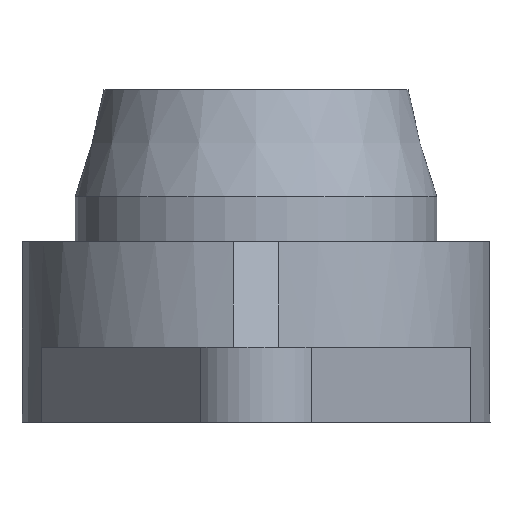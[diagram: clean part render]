
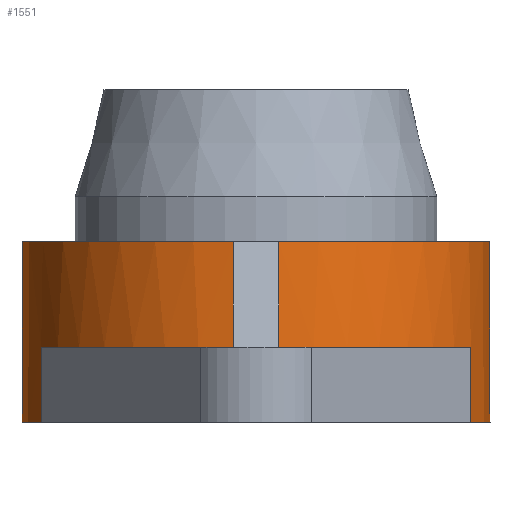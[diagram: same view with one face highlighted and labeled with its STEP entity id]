
A CAD part, front view. The second image highlights one B-rep face of the part: STEP entity #1551.
In plain terms, the highlighted cylindrical face has radius 41.5 mm (diameter 83 mm), a partial arc.
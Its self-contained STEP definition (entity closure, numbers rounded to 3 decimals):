
#130=FACE_BOUND('',#254,.T.);
#161=FACE_OUTER_BOUND('',#253,.T.);
#253=EDGE_LOOP('',(#1037,#1038,#1039,#1040,#1041,#1042,#1043,#1044));
#254=EDGE_LOOP('',(#1045,#1046));
#369=B_SPLINE_CURVE_WITH_KNOTS('',3,(#2498,#2499,#2500,#2501,#2502,#2503,
#2504,#2505,#2506,#2507,#2508,#2509,#2510,#2511,#2512,#2513,#2514,#2515),
 .UNSPECIFIED.,.F.,.F.,(4,2,2,2,2,2,2,2,4),(0.375,0.469,
0.563,0.656,0.75,0.844,
0.938,1.032,1.125),.UNSPECIFIED.);
#370=B_SPLINE_CURVE_WITH_KNOTS('',3,(#2516,#2517,#2518,#2519,#2520,#2521,
#2522,#2523,#2524,#2525,#2526,#2527,#2528,#2529,#2530,#2531,#2532,#2533,
#2534),.UNSPECIFIED.,.F.,.F.,(4,2,2,2,3,2,2,2,4),(1.125,1.219,
1.313,1.407,1.501,1.594,1.688,
1.782,1.876),.UNSPECIFIED.);
#382=LINE('',#2482,#468);
#383=LINE('',#2486,#469);
#384=LINE('',#2490,#470);
#385=LINE('',#2494,#471);
#468=VECTOR('',#1968,10.);
#469=VECTOR('',#1971,10.);
#470=VECTOR('',#1974,10.);
#471=VECTOR('',#1977,10.);
#560=CIRCLE('',#1758,41.5);
#561=CIRCLE('',#1759,41.5);
#562=CIRCLE('',#1760,41.5);
#563=CIRCLE('',#1761,41.5);
#658=VERTEX_POINT('',#2480);
#659=VERTEX_POINT('',#2481);
#660=VERTEX_POINT('',#2483);
#661=VERTEX_POINT('',#2485);
#662=VERTEX_POINT('',#2487);
#663=VERTEX_POINT('',#2489);
#664=VERTEX_POINT('',#2491);
#665=VERTEX_POINT('',#2493);
#666=VERTEX_POINT('',#2496);
#667=VERTEX_POINT('',#2497);
#812=EDGE_CURVE('',#658,#659,#382,.T.);
#813=EDGE_CURVE('',#660,#659,#560,.T.);
#814=EDGE_CURVE('',#661,#660,#383,.T.);
#815=EDGE_CURVE('',#661,#662,#561,.T.);
#816=EDGE_CURVE('',#662,#663,#384,.T.);
#817=EDGE_CURVE('',#664,#663,#562,.T.);
#818=EDGE_CURVE('',#664,#665,#385,.T.);
#819=EDGE_CURVE('',#665,#658,#563,.T.);
#820=EDGE_CURVE('',#666,#667,#369,.T.);
#821=EDGE_CURVE('',#667,#666,#370,.T.);
#1037=ORIENTED_EDGE('',*,*,#812,.T.);
#1038=ORIENTED_EDGE('',*,*,#813,.F.);
#1039=ORIENTED_EDGE('',*,*,#814,.F.);
#1040=ORIENTED_EDGE('',*,*,#815,.T.);
#1041=ORIENTED_EDGE('',*,*,#816,.T.);
#1042=ORIENTED_EDGE('',*,*,#817,.F.);
#1043=ORIENTED_EDGE('',*,*,#818,.T.);
#1044=ORIENTED_EDGE('',*,*,#819,.T.);
#1045=ORIENTED_EDGE('',*,*,#820,.T.);
#1046=ORIENTED_EDGE('',*,*,#821,.T.);
#1466=CYLINDRICAL_SURFACE('',#1757,41.5);
#1551=ADVANCED_FACE('',(#161,#130),#1466,.T.);
#1757=AXIS2_PLACEMENT_3D('',#2479,#1966,#1967);
#1758=AXIS2_PLACEMENT_3D('',#2484,#1969,#1970);
#1759=AXIS2_PLACEMENT_3D('',#2488,#1972,#1973);
#1760=AXIS2_PLACEMENT_3D('',#2492,#1975,#1976);
#1761=AXIS2_PLACEMENT_3D('',#2495,#1978,#1979);
#1966=DIRECTION('center_axis',(0.,0.,1.));
#1967=DIRECTION('ref_axis',(0.,1.,0.));
#1968=DIRECTION('',(0.,0.,-1.));
#1969=DIRECTION('center_axis',(0.,0.,
-1.));
#1970=DIRECTION('ref_axis',(-1.,0.,0.));
#1971=DIRECTION('',(0.,0.,1.));
#1972=DIRECTION('center_axis',(0.,0.,1.));
#1973=DIRECTION('ref_axis',(0.916,-0.402,0.));
#1974=DIRECTION('',(0.,0.,1.));
#1975=DIRECTION('center_axis',(0.,0.,
-1.));
#1976=DIRECTION('ref_axis',(-1.,0.,0.));
#1977=DIRECTION('',(0.,0.,1.));
#1978=DIRECTION('center_axis',(0.,0.,-1.));
#1979=DIRECTION('ref_axis',(-1.,0.,0.));
#2479=CARTESIAN_POINT('Origin',(0.,0.,-19.3));
#2480=CARTESIAN_POINT('',(4.,-41.307,12.7));
#2481=CARTESIAN_POINT('',(4.,-41.307,-6.));
#2482=CARTESIAN_POINT('',(4.,-41.307,-19.3));
#2483=CARTESIAN_POINT('',(38.,-16.681,-6.));
#2484=CARTESIAN_POINT('Origin',(0.,0.,-6.));
#2485=CARTESIAN_POINT('',(38.,-16.681,-19.3));
#2486=CARTESIAN_POINT('',(38.,-16.681,-19.3));
#2487=CARTESIAN_POINT('',(-38.,-16.681,-19.3));
#2488=CARTESIAN_POINT('Origin',(0.,0.,-19.3));
#2489=CARTESIAN_POINT('',(-38.,-16.681,-6.));
#2490=CARTESIAN_POINT('',(-38.,-16.681,-19.3));
#2491=CARTESIAN_POINT('',(-4.,-41.307,-6.));
#2492=CARTESIAN_POINT('Origin',(0.,0.,-6.));
#2493=CARTESIAN_POINT('',(-4.,-41.307,12.7));
#2494=CARTESIAN_POINT('',(-4.,-41.307,-19.3));
#2495=CARTESIAN_POINT('Origin',(0.,0.,12.7));
#2496=CARTESIAN_POINT('',(-29.345,29.345,2.211));
#2497=CARTESIAN_POINT('',(-29.345,29.345,7.189));
#2498=CARTESIAN_POINT('Ctrl Pts',(-29.345,29.345,2.211));
#2499=CARTESIAN_POINT('Ctrl Pts',(-29.124,29.566,2.211));
#2500=CARTESIAN_POINT('Ctrl Pts',(-28.885,29.799,2.273));
#2501=CARTESIAN_POINT('Ctrl Pts',(-28.442,30.223,2.528));
#2502=CARTESIAN_POINT('Ctrl Pts',(-28.237,30.413,2.719));
#2503=CARTESIAN_POINT('Ctrl Pts',(-27.911,30.713,3.161));
#2504=CARTESIAN_POINT('Ctrl Pts',(-27.769,30.841,3.441));
#2505=CARTESIAN_POINT('Ctrl Pts',(-27.579,31.011,4.054));
#2506=CARTESIAN_POINT('Ctrl Pts',(-27.532,31.052,4.387));
#2507=CARTESIAN_POINT('Ctrl Pts',(-27.532,31.052,5.013));
#2508=CARTESIAN_POINT('Ctrl Pts',(-27.579,31.011,5.346));
#2509=CARTESIAN_POINT('Ctrl Pts',(-27.769,30.841,5.959));
#2510=CARTESIAN_POINT('Ctrl Pts',(-27.911,30.713,6.239));
#2511=CARTESIAN_POINT('Ctrl Pts',(-28.237,30.413,6.681));
#2512=CARTESIAN_POINT('Ctrl Pts',(-28.442,30.223,6.872));
#2513=CARTESIAN_POINT('Ctrl Pts',(-28.885,29.799,7.127));
#2514=CARTESIAN_POINT('Ctrl Pts',(-29.124,29.566,7.189));
#2515=CARTESIAN_POINT('Ctrl Pts',(-29.345,29.345,7.189));
#2516=CARTESIAN_POINT('Ctrl Pts',(-29.345,29.345,7.189));
#2517=CARTESIAN_POINT('Ctrl Pts',(-29.566,29.124,7.189));
#2518=CARTESIAN_POINT('Ctrl Pts',(-29.799,28.885,7.127));
#2519=CARTESIAN_POINT('Ctrl Pts',(-30.223,28.442,6.872));
#2520=CARTESIAN_POINT('Ctrl Pts',(-30.413,28.237,6.681));
#2521=CARTESIAN_POINT('Ctrl Pts',(-30.713,27.911,6.239));
#2522=CARTESIAN_POINT('Ctrl Pts',(-30.841,27.769,5.959));
#2523=CARTESIAN_POINT('Ctrl Pts',(-31.011,27.579,5.346));
#2524=CARTESIAN_POINT('Ctrl Pts',(-31.052,27.532,5.013));
#2525=CARTESIAN_POINT('Ctrl Pts',(-31.052,27.532,4.7));
#2526=CARTESIAN_POINT('Ctrl Pts',(-31.052,27.532,4.387));
#2527=CARTESIAN_POINT('Ctrl Pts',(-31.011,27.579,4.054));
#2528=CARTESIAN_POINT('Ctrl Pts',(-30.841,27.769,3.441));
#2529=CARTESIAN_POINT('Ctrl Pts',(-30.713,27.911,3.161));
#2530=CARTESIAN_POINT('Ctrl Pts',(-30.413,28.237,2.719));
#2531=CARTESIAN_POINT('Ctrl Pts',(-30.223,28.442,2.528));
#2532=CARTESIAN_POINT('Ctrl Pts',(-29.799,28.885,2.273));
#2533=CARTESIAN_POINT('Ctrl Pts',(-29.566,29.124,2.211));
#2534=CARTESIAN_POINT('Ctrl Pts',(-29.345,29.345,2.211));
